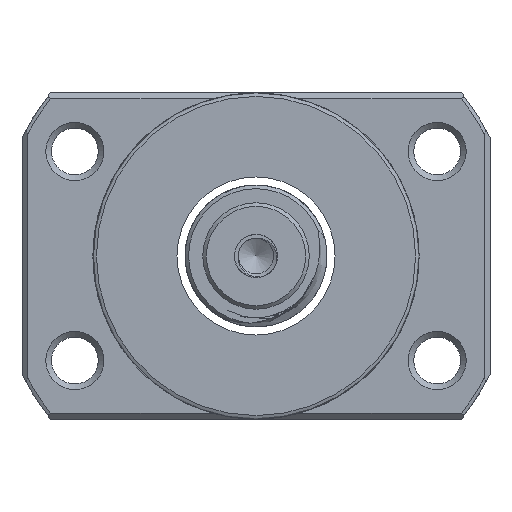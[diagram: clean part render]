
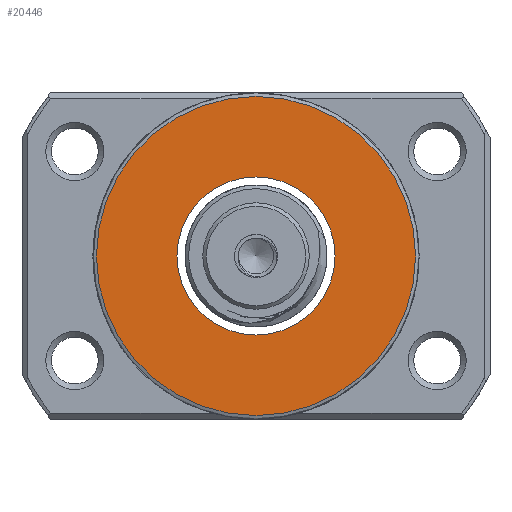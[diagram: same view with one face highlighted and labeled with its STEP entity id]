
A CAD part, left-side view. The second image highlights one B-rep face of the part: STEP entity #20446.
In plain terms, the highlighted planar face has unit normal (-1, 0, 0).
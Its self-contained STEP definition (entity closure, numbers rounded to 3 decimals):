
#199 = DIRECTION ( 'NONE',  ( -1., 0., 0. ) ) ;
#280 = CARTESIAN_POINT ( 'NONE',  ( -53.324, 0., 0. ) ) ;
#505 = FACE_BOUND ( 'NONE', #29777, .T. ) ;
#2944 = FACE_OUTER_BOUND ( 'NONE', #21846, .T. ) ;
#3250 = PLANE ( 'NONE',  #29214 ) ;
#3962 = CIRCLE ( 'NONE', #20953, 11.15 ) ;
#5894 = CIRCLE ( 'NONE', #7852, 22.5 ) ;
#7852 = AXIS2_PLACEMENT_3D ( 'NONE', #280, #16721, #20971 ) ;
#9783 = DIRECTION ( 'NONE',  ( 0., 0., 1. ) ) ;
#10299 = CARTESIAN_POINT ( 'NONE',  ( -53.324, 0., 0. ) ) ;
#12118 = DIRECTION ( 'NONE',  ( -1., 0., 0. ) ) ;
#12460 = VERTEX_POINT ( 'NONE', #21893 ) ;
#16721 = DIRECTION ( 'NONE',  ( -1., 0., 0. ) ) ;
#19578 = DIRECTION ( 'NONE',  ( 0., 0., 1. ) ) ;
#20446 = ADVANCED_FACE ( 'NONE', ( #2944, #505 ), #3250, .T. ) ;
#20953 = AXIS2_PLACEMENT_3D ( 'NONE', #10299, #12118, #19578 ) ;
#20971 = DIRECTION ( 'NONE',  ( 0., 0., 1. ) ) ;
#21421 = EDGE_CURVE ( 'NONE', #12460, #12460, #5894, .T. ) ;
#21691 = ORIENTED_EDGE ( 'NONE', *, *, #23118, .F. ) ;
#21737 = VERTEX_POINT ( 'NONE', #29356 ) ;
#21846 = EDGE_LOOP ( 'NONE', ( #22164 ) ) ;
#21893 = CARTESIAN_POINT ( 'NONE',  ( -53.324, 0., 22.5 ) ) ;
#22164 = ORIENTED_EDGE ( 'NONE', *, *, #21421, .T. ) ;
#23118 = EDGE_CURVE ( 'NONE', #21737, #21737, #3962, .T. ) ;
#23486 = CARTESIAN_POINT ( 'NONE',  ( -53.324, 11.15, 0. ) ) ;
#29214 = AXIS2_PLACEMENT_3D ( 'NONE', #23486, #199, #9783 ) ;
#29356 = CARTESIAN_POINT ( 'NONE',  ( -53.324, 0., 11.15 ) ) ;
#29777 = EDGE_LOOP ( 'NONE', ( #21691 ) ) ;
